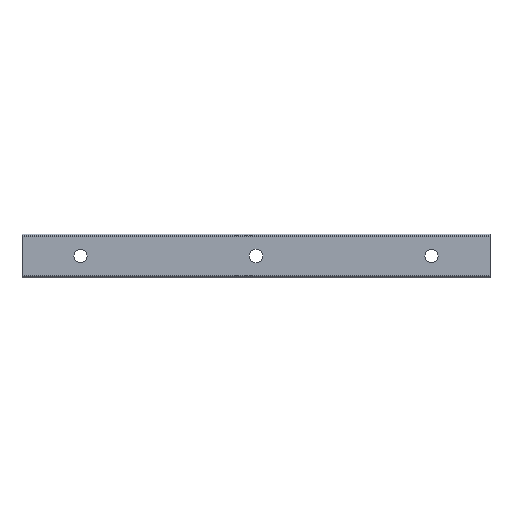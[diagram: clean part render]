
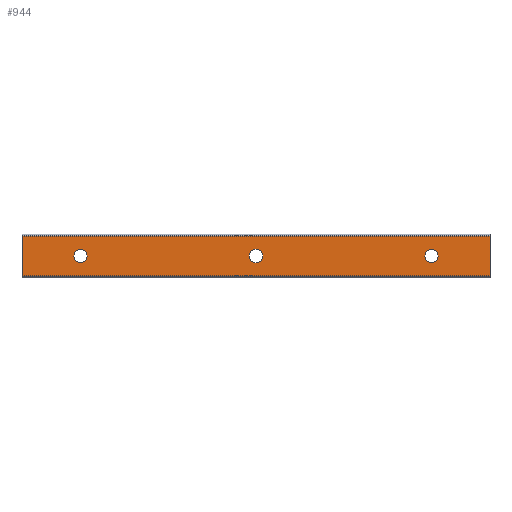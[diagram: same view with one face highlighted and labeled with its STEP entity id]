
A CAD part, front view. The second image highlights one B-rep face of the part: STEP entity #944.
In plain terms, the highlighted planar face has unit normal (0, -1, 0).
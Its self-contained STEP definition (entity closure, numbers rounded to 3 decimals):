
#22=PLANE('',#1016);
#54=LINE('',#1447,#136);
#55=LINE('',#1457,#137);
#56=LINE('',#1459,#138);
#57=LINE('',#1461,#139);
#136=VECTOR('',#1145,1000.);
#137=VECTOR('',#1156,1000.);
#138=VECTOR('',#1157,1000.);
#139=VECTOR('',#1158,1000.);
#229=ORIENTED_EDGE('',*,*,#501,.F.);
#230=ORIENTED_EDGE('',*,*,#502,.F.);
#231=ORIENTED_EDGE('',*,*,#503,.F.);
#232=ORIENTED_EDGE('',*,*,#504,.T.);
#233=ORIENTED_EDGE('',*,*,#505,.F.);
#234=ORIENTED_EDGE('',*,*,#506,.F.);
#235=ORIENTED_EDGE('',*,*,#499,.T.);
#499=EDGE_CURVE('',#634,#633,#54,.T.);
#501=EDGE_CURVE('',#635,#635,#725,.T.);
#502=EDGE_CURVE('',#636,#636,#726,.T.);
#503=EDGE_CURVE('',#637,#637,#727,.T.);
#504=EDGE_CURVE('',#633,#638,#55,.T.);
#505=EDGE_CURVE('',#639,#638,#56,.T.);
#506=EDGE_CURVE('',#634,#639,#57,.T.);
#633=VERTEX_POINT('',#1446);
#634=VERTEX_POINT('',#1448);
#635=VERTEX_POINT('',#1452);
#636=VERTEX_POINT('',#1454);
#637=VERTEX_POINT('',#1456);
#638=VERTEX_POINT('',#1458);
#639=VERTEX_POINT('',#1460);
#725=CIRCLE('',#1017,2.25);
#726=CIRCLE('',#1018,2.25);
#727=CIRCLE('',#1019,2.25);
#780=EDGE_LOOP('',(#229));
#781=EDGE_LOOP('',(#230));
#782=EDGE_LOOP('',(#231));
#783=EDGE_LOOP('',(#232,#233,#234,#235));
#848=FACE_BOUND('',#780,.T.);
#849=FACE_BOUND('',#781,.T.);
#850=FACE_BOUND('',#782,.T.);
#851=FACE_BOUND('',#783,.T.);
#944=ADVANCED_FACE('',(#848,#849,#850,#851),#22,.F.);
#1016=AXIS2_PLACEMENT_3D('',#1450,#1148,#1149);
#1017=AXIS2_PLACEMENT_3D('',#1451,#1150,#1151);
#1018=AXIS2_PLACEMENT_3D('',#1453,#1152,#1153);
#1019=AXIS2_PLACEMENT_3D('',#1455,#1154,#1155);
#1145=DIRECTION('',(-1.,0.,0.));
#1148=DIRECTION('',(0.,1.,0.));
#1149=DIRECTION('',(0.,0.,1.));
#1150=DIRECTION('',(0.,-1.,0.));
#1151=DIRECTION('',(0.,0.,-1.));
#1152=DIRECTION('',(0.,-1.,0.));
#1153=DIRECTION('',(0.,0.,-1.));
#1154=DIRECTION('',(0.,-1.,0.));
#1155=DIRECTION('',(0.,0.,-1.));
#1156=DIRECTION('',(0.,0.,-1.));
#1157=DIRECTION('',(-1.,0.,0.));
#1158=DIRECTION('',(0.,0.,-1.));
#1446=CARTESIAN_POINT('',(-20.,0.,6.786));
#1447=CARTESIAN_POINT('',(140.,0.,6.786));
#1448=CARTESIAN_POINT('',(140.,0.,6.786));
#1450=CARTESIAN_POINT('',(140.,0.,6.786));
#1451=CARTESIAN_POINT('',(60.,0.,0.));
#1452=CARTESIAN_POINT('',(60.,0.,-2.25));
#1453=CARTESIAN_POINT('',(120.,0.,0.));
#1454=CARTESIAN_POINT('',(120.,0.,-2.25));
#1455=CARTESIAN_POINT('',(0.,0.,0.));
#1456=CARTESIAN_POINT('',(0.,0.,-2.25));
#1457=CARTESIAN_POINT('',(-20.,0.,6.786));
#1458=CARTESIAN_POINT('',(-20.,0.,-6.786));
#1459=CARTESIAN_POINT('',(140.,0.,-6.786));
#1460=CARTESIAN_POINT('',(140.,0.,-6.786));
#1461=CARTESIAN_POINT('',(140.,0.,6.786));
